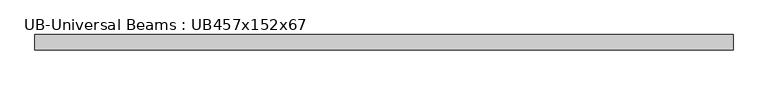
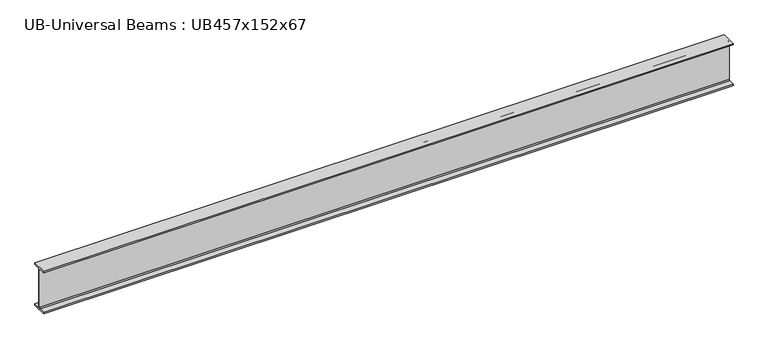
"""IFC4 building model written with IfcOpenShell, lengths in millimetres: beam geometry, UB-Universal Beams : UB457x152x67."""

from ifc_helpers import new_model, si_unit, point, frame, frame_2d, origin, place, context, project, spatial, polyline, circle_curve, trimmed, segment, composite_curve, outline, extrude, source, transform, mapped, element, save


def ub_universal_beams_ub457x152x67_7b3b5f84(model_context):
    return source(origin(), model_context, "Body", "SweptSolid", [
        extrude(outline(composite_curve([segment(polyline([(76.9, -214.0), (76.9, -229.0), (-76.9, -229.0), (-76.9, -214.0), (-14.7, -214.0)]), True, "CONTINUOUS"), segment(trimmed(circle_curve(frame_2d((-14.7, -203.8)), 10.2), [point((-14.7, -214.0))], [point((-4.5, -203.8))], True, "CARTESIAN"), True, "CONTINUOUS"), segment(polyline([(-4.5, -203.8), (-4.5, 203.8)]), True, "CONTINUOUS"), segment(trimmed(circle_curve(frame_2d((-14.7, 203.8)), 10.2), [point((-4.5, 203.8))], [point((-14.7, 214.0))], True, "CARTESIAN"), True, "CONTINUOUS"), segment(polyline([(-14.7, 214.0), (-76.9, 214.0), (-76.9, 229.0), (76.9, 229.0), (76.9, 214.0), (14.7, 214.0)]), True, "CONTINUOUS"), segment(trimmed(circle_curve(frame_2d((14.7, 203.8)), 10.2), [point((14.7, 214.0))], [point((4.5, 203.8))], True, "CARTESIAN"), True, "CONTINUOUS"), segment(polyline([(4.5, 203.8), (4.5, -203.8)]), True, "CONTINUOUS"), segment(trimmed(circle_curve(frame_2d((14.7, -203.8)), 10.2), [point((4.5, -203.8))], [point((14.7, -214.0))], True, "CARTESIAN"), True, "CONTINUOUS"), segment(polyline([(14.7, -214.0), (76.9, -214.0)]), True, "CONTINUOUS")], self_intersect=False)), frame((-3499.1, 0.0, 0.0), z_axis=(1.0, 0.0, 0.0), x_axis=(0.0, 1.0, 0.0)), (0.0, 0.0, 1.0), 7059.5),
    ])


if __name__ == "__main__":
    model = new_model("IFC4")
    model_context = context("Model", 3, world=origin())
    ifc_project = project(units=[si_unit("LENGTHUNIT", "METRE", prefix="MILLI")], contexts=[model_context])
    site = spatial("IfcSite", under=ifc_project)
    building = spatial("IfcBuilding", under=site)
    placement = place(None, origin())
    ub_universal_beams_ub457x152x67_shape = ub_universal_beams_ub457x152x67_7b3b5f84(model_context)
    element("IfcBeam", 1, ObjectType="UB-Universal Beams : UB457x152x67", at=placement, inside=building, context=model_context, shape_type="MappedRepresentation", body=[
        mapped(ub_universal_beams_ub457x152x67_shape, transform((0.0, 0.0, 0.0), x_axis=(1.0, 0.0, 0.0), y_axis=(0.0, 1.0, 0.0), z_axis=(0.0, 0.0, 1.0))),
    ])
    save(model, "model.ifc")
